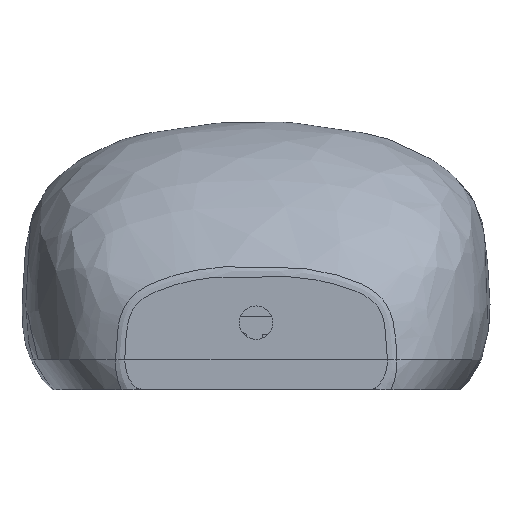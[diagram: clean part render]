
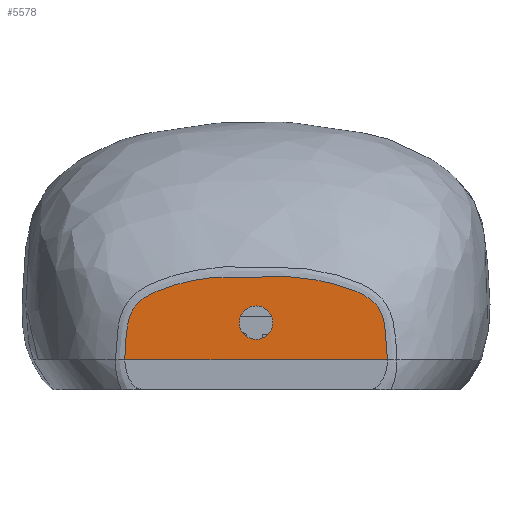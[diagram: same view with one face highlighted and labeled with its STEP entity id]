
A CAD part, front view. The second image highlights one B-rep face of the part: STEP entity #5578.
In plain terms, the highlighted planar face has unit normal (0, -1, 0).
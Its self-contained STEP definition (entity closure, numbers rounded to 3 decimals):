
#907=B_SPLINE_CURVE_WITH_KNOTS('',3,(#105320,#105321,#105322,#105323,#105324,
#105325,#105326,#105327,#105328,#105329,#105330,#105331,#105332,#105333,
#105334,#105335,#105336,#105337,#105338,#105339,#105340,#105341,#105342,
#105343,#105344,#105345,#105346,#105347,#105348,#105349,#105350,#105351,
#105352,#105353,#105354,#105355,#105356,#105357,#105358,#105359,#105360,
#105361,#105362,#105363,#105364,#105365,#105366,#105367,#105368,#105369,
#105370,#105371,#105372,#105373,#105374,#105375,#105376,#105377,#105378,
#105379,#105380,#105381,#105382,#105383),.UNSPECIFIED.,.F.,.F.,(4,2,2,2,
2,2,2,2,2,2,2,2,2,2,2,2,2,2,2,2,2,2,2,2,2,2,2,2,2,2,2,4),(0.,0.031,
0.062,0.094,0.125,0.141,0.156,0.172,0.188,
0.203,0.219,0.25,0.313,0.344,0.375,0.438,
0.5,0.563,0.625,0.688,0.719,0.75,0.781,
0.813,0.828,0.844,0.859,0.875,0.906,
0.938,0.969,1.),.UNSPECIFIED.);
#2190=FACE_BOUND('',#13416,.T.);
#2191=FACE_BOUND('',#13417,.T.);
#5578=ADVANCED_FACE('',(#2190,#2191),#7621,.F.);
#7621=PLANE('',#56269);
#13416=EDGE_LOOP('',(#28512));
#13417=EDGE_LOOP('',(#28513,#28514));
#14971=CIRCLE('',#56268,2.25);
#28512=ORIENTED_EDGE('',*,*,#41338,.T.);
#28513=ORIENTED_EDGE('',*,*,#41339,.T.);
#28514=ORIENTED_EDGE('',*,*,#41335,.T.);
#34188=VERTEX_POINT('',#105306);
#34189=VERTEX_POINT('',#105308);
#34190=VERTEX_POINT('',#105319);
#41335=EDGE_CURVE('',#34189,#34188,#47010,.T.);
#41338=EDGE_CURVE('',#34190,#34190,#14971,.T.);
#41339=EDGE_CURVE('',#34188,#34189,#907,.T.);
#47010=LINE('',#105307,#52382);
#52382=VECTOR('',#68919,1.);
#56268=AXIS2_PLACEMENT_3D('',#105318,#68925,#68926);
#56269=AXIS2_PLACEMENT_3D('',#105384,#68927,#68928);
#68919=DIRECTION('',(1.,0.,0.));
#68925=DIRECTION('',(0.,1.,0.));
#68926=DIRECTION('',(0.,0.,1.));
#68927=DIRECTION('',(0.,1.,0.));
#68928=DIRECTION('',(-1.,0.,0.));
#105306=CARTESIAN_POINT('',(17.632,-65.,-1.));
#105307=CARTESIAN_POINT('',(0.,-65.,-1.));
#105308=CARTESIAN_POINT('',(-17.632,-65.,-1.));
#105318=CARTESIAN_POINT('',(0.,-65.,4.));
#105319=CARTESIAN_POINT('',(0.,-65.,6.25));
#105320=CARTESIAN_POINT('',(17.632,-65.,-1.));
#105321=CARTESIAN_POINT('',(17.64,-65.,-0.484));
#105322=CARTESIAN_POINT('',(17.606,-65.,0.03));
#105323=CARTESIAN_POINT('',(17.536,-65.,1.058));
#105324=CARTESIAN_POINT('',(17.502,-65.,1.572));
#105325=CARTESIAN_POINT('',(17.41,-65.,2.599));
#105326=CARTESIAN_POINT('',(17.351,-65.,3.114));
#105327=CARTESIAN_POINT('',(17.171,-65.,4.131));
#105328=CARTESIAN_POINT('',(17.05,-65.,4.632));
#105329=CARTESIAN_POINT('',(16.774,-65.,5.357));
#105330=CARTESIAN_POINT('',(16.665,-65.,5.595));
#105331=CARTESIAN_POINT('',(16.408,-65.,6.04));
#105332=CARTESIAN_POINT('',(16.259,-65.,6.249));
#105333=CARTESIAN_POINT('',(15.917,-65.,6.638));
#105334=CARTESIAN_POINT('',(15.726,-65.,6.818));
#105335=CARTESIAN_POINT('',(15.329,-65.,7.144));
#105336=CARTESIAN_POINT('',(15.119,-65.,7.293));
#105337=CARTESIAN_POINT('',(14.685,-65.,7.57));
#105338=CARTESIAN_POINT('',(14.46,-65.,7.699));
#105339=CARTESIAN_POINT('',(14.,-65.,7.937));
#105340=CARTESIAN_POINT('',(13.768,-65.,8.047));
#105341=CARTESIAN_POINT('',(13.063,-65.,8.355));
#105342=CARTESIAN_POINT('',(12.584,-65.,8.533));
#105343=CARTESIAN_POINT('',(11.134,-65.,9.023));
#105344=CARTESIAN_POINT('',(10.151,-65.,9.3));
#105345=CARTESIAN_POINT('',(8.65,-65.,9.634));
#105346=CARTESIAN_POINT('',(8.144,-65.,9.732));
#105347=CARTESIAN_POINT('',(7.133,-65.,9.898));
#105348=CARTESIAN_POINT('',(6.626,-65.,9.968));
#105349=CARTESIAN_POINT('',(5.103,-65.,10.141));
#105350=CARTESIAN_POINT('',(4.085,-65.,10.21));
#105351=CARTESIAN_POINT('',(2.043,-65.,10.294));
#105352=CARTESIAN_POINT('',(1.02,-65.,10.309));
#105353=CARTESIAN_POINT('',(-1.028,-65.,10.309));
#105354=CARTESIAN_POINT('',(-2.05,-65.,10.294));
#105355=CARTESIAN_POINT('',(-4.09,-65.,10.21));
#105356=CARTESIAN_POINT('',(-5.108,-65.,10.141));
#105357=CARTESIAN_POINT('',(-7.134,-65.,9.91));
#105358=CARTESIAN_POINT('',(-8.142,-65.,9.747));
#105359=CARTESIAN_POINT('',(-9.647,-65.,9.412));
#105360=CARTESIAN_POINT('',(-10.147,-65.,9.286));
#105361=CARTESIAN_POINT('',(-11.137,-65.,9.008));
#105362=CARTESIAN_POINT('',(-11.629,-65.,8.856));
#105363=CARTESIAN_POINT('',(-12.603,-65.,8.526));
#105364=CARTESIAN_POINT('',(-13.087,-65.,8.345));
#105365=CARTESIAN_POINT('',(-14.027,-65.,7.932));
#105366=CARTESIAN_POINT('',(-14.484,-65.,7.7));
#105367=CARTESIAN_POINT('',(-15.132,-65.,7.284));
#105368=CARTESIAN_POINT('',(-15.344,-65.,7.133));
#105369=CARTESIAN_POINT('',(-15.742,-65.,6.804));
#105370=CARTESIAN_POINT('',(-15.928,-65.,6.627));
#105371=CARTESIAN_POINT('',(-16.265,-65.,6.241));
#105372=CARTESIAN_POINT('',(-16.416,-65.,6.029));
#105373=CARTESIAN_POINT('',(-16.673,-65.,5.578));
#105374=CARTESIAN_POINT('',(-16.78,-65.,5.343));
#105375=CARTESIAN_POINT('',(-17.053,-65.,4.62));
#105376=CARTESIAN_POINT('',(-17.175,-65.,4.111));
#105377=CARTESIAN_POINT('',(-17.353,-65.,3.098));
#105378=CARTESIAN_POINT('',(-17.411,-65.,2.588));
#105379=CARTESIAN_POINT('',(-17.502,-65.,1.566));
#105380=CARTESIAN_POINT('',(-17.536,-65.,1.053));
#105381=CARTESIAN_POINT('',(-17.606,-65.,0.028));
#105382=CARTESIAN_POINT('',(-17.64,-65.,-0.487));
#105383=CARTESIAN_POINT('',(-17.632,-65.,-1.));
#105384=CARTESIAN_POINT('',(0.,-65.,1.498));
